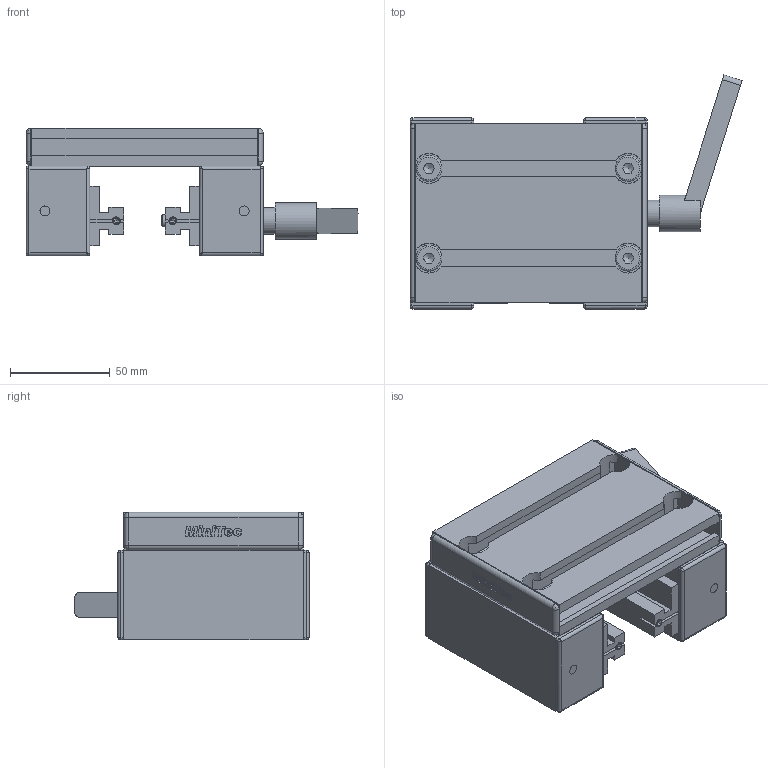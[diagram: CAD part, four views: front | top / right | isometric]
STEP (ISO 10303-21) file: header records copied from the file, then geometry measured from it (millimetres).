
FILE_DESCRIPTION((''),'2;1');
FILE_NAME('C:\Andys Backup Data\WEBSITE\DREAMWEAVER\MiniTec\Products\Linear_System_LG\CAD\Step\28.0192_2 SLIDE LWN 32X45-45 WITH SIDE CLAMP.stp','2013-08-29T11:38:11',('Admin'),(''),'Autodesk Inventor 2012','Autodesk Inventor 2012','');
FILE_SCHEMA(('AUTOMOTIVE_DESIGN { 1 0 10303 214 1 1 1 1 }'));
Products named in the file (18): 28.0192_2 SLIDE LWN 32X45-45 WITH SIDE CLAMP; 28.0222 SLIDE LWN 32X45-45 90X19; 28.0126 SLIDE 45X32; 22.1014_1 END CAP 90X19 GRAY; 22.1095_9 SLIDE RAIL LN FOR SIDE LOCK; 21.1314 M4X8 SET SCREW CONE POINT DIN 914; 21.1302 M5x16 Set Screw Flat Point DIN 913; 22.1095 SLIDE RAIL LN; 22.1095_1 SLIDE RAIL LN; 21.1200 M8 x 16; 21.1351 M8 SQUARE NUT; 28.0126_9 SIDE LOCK 45X32; 21.1014_2 SLIDE LOCK WITH M6X51 STUD; 21.1330 M6 SQUARE NUT; 22.1003_1 END CAP 45x32 Z Gray; 22.1003_1 END CAP 45X32 GRAY; END CAP DOWEL GRAY
Assembly tree (33 placements, depth 3):
  28.0192_2 SLIDE LWN 32X45-45 WITH SIDE CLAMP
    28.0222 SLIDE LWN 32X45-45 90X19
    28.0126 SLIDE 45X32
    22.1014_1 END CAP 90X19 GRAY  x2
    22.1095_9 SLIDE RAIL LN FOR SIDE LOCK
      22.1095_9 SLIDE RAIL LN FOR SIDE LOCK
      21.1314 M4X8 SET SCREW CONE POINT DIN 914  x2
      21.1302 M5x16 Set Screw Flat Point DIN 913  x2
    22.1095 SLIDE RAIL LN
      22.1095_1 SLIDE RAIL LN
      21.1314 M4X8 SET SCREW CONE POINT DIN 914  x2
      21.1302 M5x16 Set Screw Flat Point DIN 913  x2
    21.1200 M8 x 16  x4
    21.1351 M8 SQUARE NUT  x4
    28.0126_9 SIDE LOCK 45X32
    21.1014_2 SLIDE LOCK WITH M6X51 STUD
    21.1330 M6 SQUARE NUT
    22.1003_1 END CAP 45x32 Z Gray  x4
      22.1003_1 END CAP 45X32 GRAY
      END CAP DOWEL GRAY
Bounding box: 166.62 x 117.53 x 64 mm (x, y, z)
Volume: 306809.3 mm3; surface area: 198488.6 mm2
Topology: 33 solids, 33 shells, 1132 faces, 2854 edges, 1842 vertices
Faces by surface type: plane 760, cylinder 278, cone 42, bspline 28, torus 16, sphere 8
Full cylindrical faces by diameter (mm): 4 x4, 5 x12, 6 x3, 6.5 x1, 7 x4, 7.65 x8, 7.9 x8, 8 x8, 8.65 x4, 9 x4, 9.9 x8, 11.25 x16, 12.25 x8, 13 x4, 13.462 x1, 18.339 x1
Entity records: 21463 total; most frequent: CARTESIAN_POINT 3944, DIRECTION 3524, ORIENTED_EDGE 3490, EDGE_CURVE 1745, VECTOR 1310, LINE 1310, VERTEX_POINT 1176, AXIS2_PLACEMENT_3D 1107
